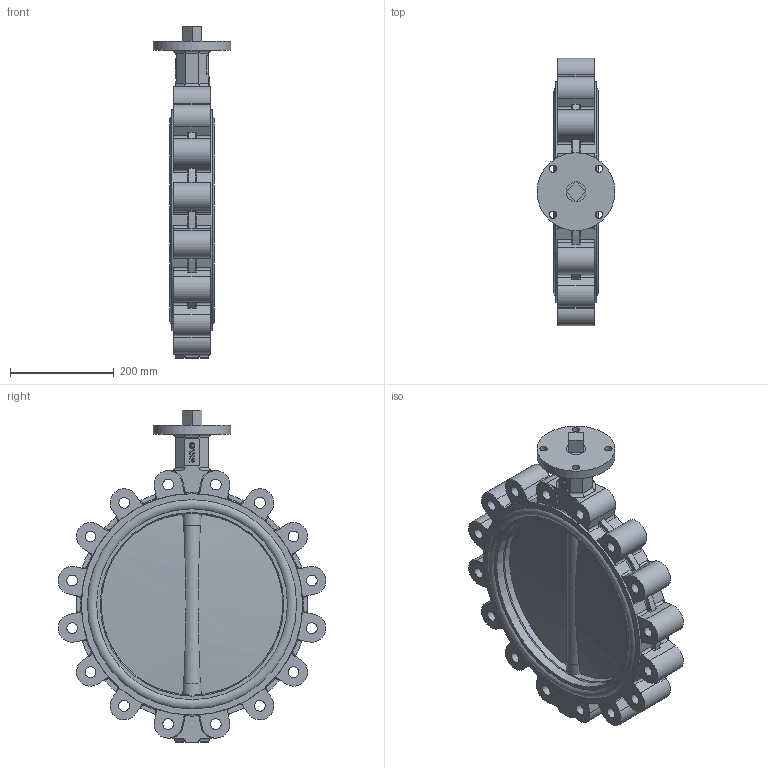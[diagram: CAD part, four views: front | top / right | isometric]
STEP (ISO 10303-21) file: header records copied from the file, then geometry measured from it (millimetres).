
FILE_DESCRIPTION(('STEP AP242'), '1');
FILE_NAME('Ïîâîðîòíûé çàòâîð ïîä ýëåêòðîïðèâîä', '', ('UNSPECIFIED'), ('UNSPECIFIED'), 'C3D Converter', 'C3D Toolkit', '');
FILE_SCHEMA(('AP242_MANAGED_MODEL_BASED_3D_ENGINEERING_MIM_LF { 1 0 10303 442 1 1 4 }'));
Length unit declared in the file: millimetre
Products named in the file (6): П
Assembly tree (6 placements, depth 2):
  (unnamed)
    (unnamed)
    П  x2
    (unnamed)
    (unnamed)
    (unnamed)
Bounding box: 150 x 514.96 x 639 mm (x, y, z)
Volume: 8790802.5 mm3; surface area: 1205713.1 mm2
Topology: 6 solids, 6 shells, 796 faces, 2095 edges, 1342 vertices
Faces by surface type: plane 280, cylinder 232, extrusion 173, torus 103, cone 4, sphere 4
Full cylindrical faces by diameter (mm): 11.421 x1, 14 x4, 20.752 x16, 27 x5, 29.7 x1, 37.05 x4, 38.184 x5, 150 x1, 350 x1, 353.5 x2, 367.5 x2, 385.083 x4, 402.667 x4, 426 x2
Entity records: 31062 total; most frequent: CARTESIAN_POINT 9443, ORIENTED_EDGE 4058, DIRECTION 3604, EDGE_CURVE 2029, VERTEX_POINT 1337, AXIS2_PLACEMENT_3D 1238, VECTOR 1128, LINE 955
